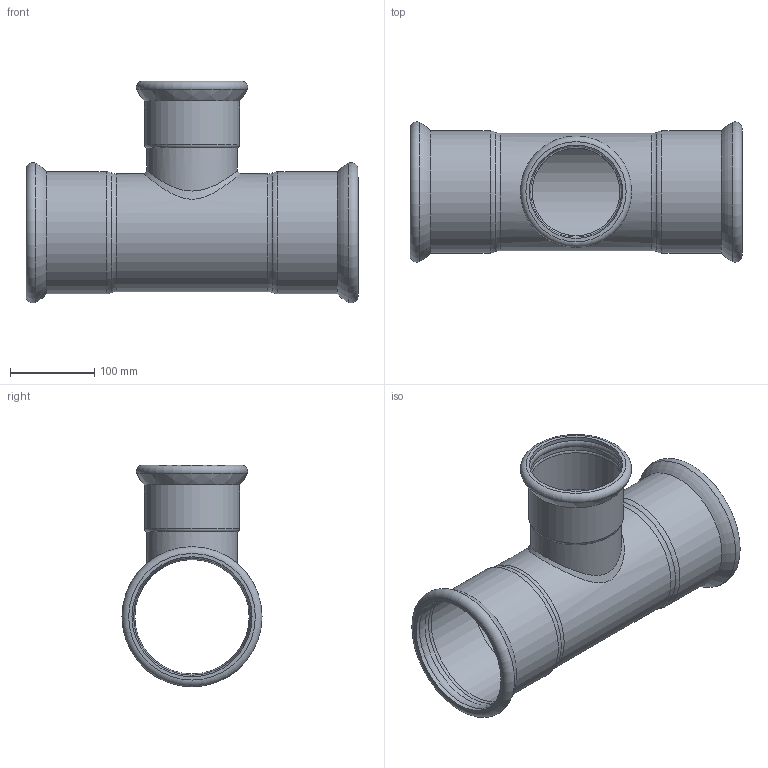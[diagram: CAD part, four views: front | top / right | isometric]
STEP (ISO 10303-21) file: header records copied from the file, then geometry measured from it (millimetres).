
FILE_DESCRIPTION(/* description */ ('Tee ridotto 139,7x108x139,7 Inoxpres'),/* implementation_level */ '2;1');
FILE_NAME(/* name */ 'R:\Disegni3D_Area_Manager\Inoxpres.step\192_INOXPRES\192139108_Inoxpres.stp',/* time_stamp */ '2022-10-12T11:10:41+02:00',/* author */ ('Vault'),/* organization */ ('Raccorderie metalliche s.p.a. '),/* preprocessor_version */ 'ST-DEVELOPER v18.1',/* originating_system */ 'Autodesk Inventor 2020',/* authorisation */ 'Raccorderie metalliche s.p.a. ');
FILE_SCHEMA (('AUTOMOTIVE_DESIGN { 1 0 10303 214 3 1 1 }'));
Length unit declared in the file: millimetre
Products named in the file (1): 192139108_Inoxpres
Bounding box: 394 x 166.27 x 263.04 mm (x, y, z)
Volume: 637465.3 mm3; surface area: 433623.5 mm2
Topology: 1 solids, 1 shells, 44 faces, 155 edges, 113 vertices
Faces by surface type: torus 21, cylinder 16, bspline 4, plane 2, cone 1
Full cylindrical faces by diameter (mm): 104 x1, 108 x1, 108.8 x1, 110.7 x2, 112.8 x1, 135.7 x1, 139.7 x1, 141 x2, 142.5 x4, 145 x2
Entity records: 2659 total; most frequent: CARTESIAN_POINT 1156, DIRECTION 351, ORIENTED_EDGE 312, AXIS2_PLACEMENT_3D 165, EDGE_CURVE 156, CIRCLE 124, VERTEX_POINT 114, EDGE_LOOP 48
